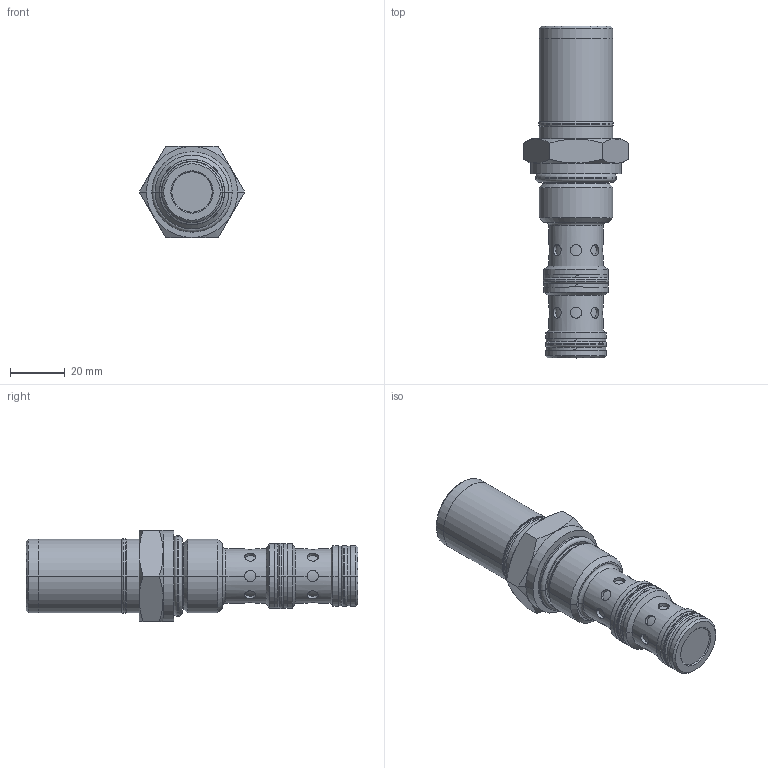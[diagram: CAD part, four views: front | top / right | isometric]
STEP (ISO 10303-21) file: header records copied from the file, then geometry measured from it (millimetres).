
FILE_DESCRIPTION((''),'2;1');
FILE_NAME('AODV-12-3_-4T-OUT','2015-12-23T',('torrese'),(''),'PRO/ENGINEER BY PARAMETRIC TECHNOLOGY CORPORATION, 2015070','PRO/ENGINEER BY PARAMETRIC TECHNOLOGY CORPORATION, 2015070','');
FILE_SCHEMA(('CONFIG_CONTROL_DESIGN','GEOMETRIC_VALIDATION_PROPERTIES_MIM'));
Length unit declared in the file: inch
Products named in the file (1): AODV-12-3_-4T-OUT
Bounding box: 38.48 x 121.28 x 33.32 mm (x, y, z)
Volume: 61911.7 mm3; surface area: 12862.5 mm2
Topology: 1 solids, 1 shells, 184 faces, 394 edges, 238 vertices
Faces by surface type: cylinder 99, plane 35, cone 26, torus 24
Entity records: 13795 total; most frequent: CARTESIAN_POINT 7380, DIRECTION 840, ORIENTED_EDGE 788, PRESENTATION_STYLE_ASSIGNMENT 542, STYLED_ITEM 401, CURVE_STYLE 394, EDGE_CURVE 394, AXIS2_PLACEMENT_3D 354
